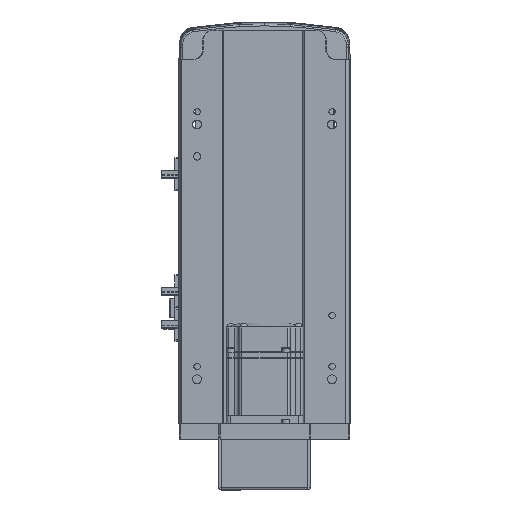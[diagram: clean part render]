
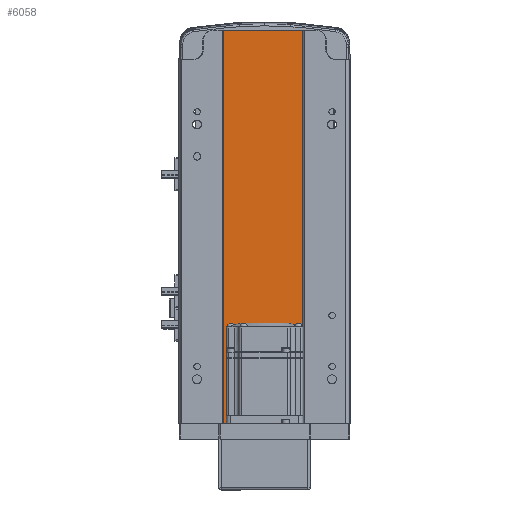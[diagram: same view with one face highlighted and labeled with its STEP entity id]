
A CAD part, front view. The second image highlights one B-rep face of the part: STEP entity #6058.
In plain terms, the highlighted planar face has unit normal (0, -1, 0).
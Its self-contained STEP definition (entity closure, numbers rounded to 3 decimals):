
#1472 = LINE ( 'NONE', #24242, #25764 ) ;
#3287 = VERTEX_POINT ( 'NONE', #5770 ) ;
#3331 = ORIENTED_EDGE ( 'NONE', *, *, #24246, .T. ) ;
#5170 = FACE_OUTER_BOUND ( 'NONE', #14444, .T. ) ;
#5770 = CARTESIAN_POINT ( 'NONE',  ( 30., 1., 0. ) ) ;
#6058 = ADVANCED_FACE ( 'NONE', ( #5170 ), #53730, .F. ) ;
#6421 = CARTESIAN_POINT ( 'NONE',  ( 30., 1., 309. ) ) ;
#7607 = ORIENTED_EDGE ( 'NONE', *, *, #47182, .F. ) ;
#12533 = DIRECTION ( 'NONE',  ( -1., 0., 0. ) ) ;
#14258 = ORIENTED_EDGE ( 'NONE', *, *, #30359, .F. ) ;
#14444 = EDGE_LOOP ( 'NONE', ( #3331, #14258, #7607, #21095 ) ) ;
#14998 = DIRECTION ( 'NONE',  ( 1., 0., 0. ) ) ;
#19919 = EDGE_CURVE ( 'NONE', #37608, #34966, #38252, .T. ) ;
#20970 = AXIS2_PLACEMENT_3D ( 'NONE', #38963, #21753, #12533 ) ;
#21095 = ORIENTED_EDGE ( 'NONE', *, *, #19919, .T. ) ;
#21753 = DIRECTION ( 'NONE',  ( 0., 1., 0. ) ) ;
#22710 = CARTESIAN_POINT ( 'NONE',  ( 30., 1., 309. ) ) ;
#22769 = CARTESIAN_POINT ( 'NONE',  ( -32., 1., 0. ) ) ;
#23768 = CARTESIAN_POINT ( 'NONE',  ( -32., 1., 0. ) ) ;
#24144 = DIRECTION ( 'NONE',  ( 1., 0., 0. ) ) ;
#24242 = CARTESIAN_POINT ( 'NONE',  ( -32., 1., 309. ) ) ;
#24246 = EDGE_CURVE ( 'NONE', #34966, #3287, #41894, .T. ) ;
#25764 = VECTOR ( 'NONE', #14998, 1000. ) ;
#26114 = VECTOR ( 'NONE', #38714, 1000. ) ;
#30359 = EDGE_CURVE ( 'NONE', #45197, #3287, #45072, .T. ) ;
#34966 = VERTEX_POINT ( 'NONE', #22769 ) ;
#37608 = VERTEX_POINT ( 'NONE', #55391 ) ;
#38252 = LINE ( 'NONE', #47425, #26114 ) ;
#38714 = DIRECTION ( 'NONE',  ( 0., 0., -1. ) ) ;
#38963 = CARTESIAN_POINT ( 'NONE',  ( -32., 1., 309. ) ) ;
#40995 = VECTOR ( 'NONE', #52949, 1000. ) ;
#41894 = LINE ( 'NONE', #23768, #55438 ) ;
#45072 = LINE ( 'NONE', #22710, #40995 ) ;
#45197 = VERTEX_POINT ( 'NONE', #6421 ) ;
#47182 = EDGE_CURVE ( 'NONE', #37608, #45197, #1472, .T. ) ;
#47425 = CARTESIAN_POINT ( 'NONE',  ( -32., 1., 309. ) ) ;
#52949 = DIRECTION ( 'NONE',  ( 0., 0., -1. ) ) ;
#53730 = PLANE ( 'NONE',  #20970 ) ;
#55391 = CARTESIAN_POINT ( 'NONE',  ( -32., 1., 309. ) ) ;
#55438 = VECTOR ( 'NONE', #24144, 1000. ) ;
